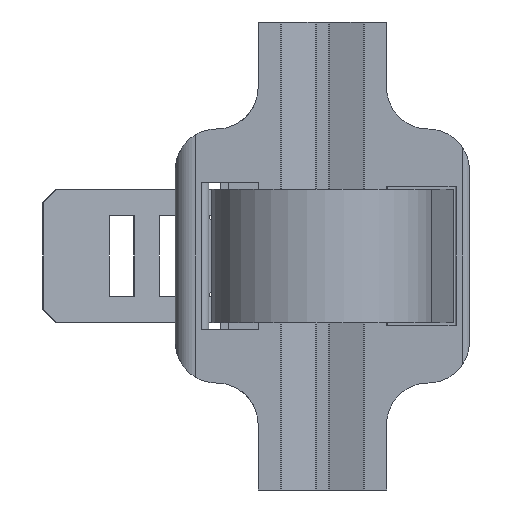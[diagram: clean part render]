
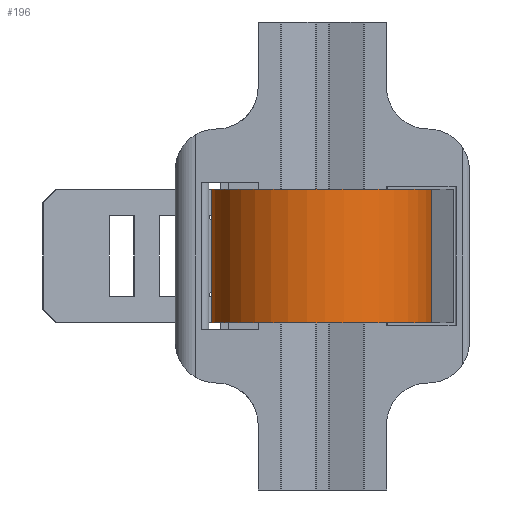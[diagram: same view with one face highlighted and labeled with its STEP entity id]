
A CAD part, front view. The second image highlights one B-rep face of the part: STEP entity #196.
In plain terms, the highlighted cylindrical face has radius 8.3 mm (diameter 16.6 mm), a partial arc.
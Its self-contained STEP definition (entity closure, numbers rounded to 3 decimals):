
#196 = ADVANCED_FACE( '', ( #505 ), #506, .T. );
#505 = FACE_OUTER_BOUND( '', #934, .T. );
#506 = CYLINDRICAL_SURFACE( '', #935, 8.3 );
#934 = EDGE_LOOP( '', ( #1488, #1489, #1490, #1491 ) );
#935 = AXIS2_PLACEMENT_3D( '', #1492, #1493, #1494 );
#1488 = ORIENTED_EDGE( '', *, *, #2707, .T. );
#1489 = ORIENTED_EDGE( '', *, *, #2708, .F. );
#1490 = ORIENTED_EDGE( '', *, *, #2709, .F. );
#1491 = ORIENTED_EDGE( '', *, *, #2613, .T. );
#1492 = CARTESIAN_POINT( '', ( 0., -7.15, 5. ) );
#1493 = DIRECTION( '', ( 0., 0., 1. ) );
#1494 = DIRECTION( '', ( -1., 0., 0. ) );
#2613 = EDGE_CURVE( '', #3152, #3150, #3153, .T. );
#2707 = EDGE_CURVE( '', #3150, #3316, #3317, .T. );
#2708 = EDGE_CURVE( '', #3318, #3316, #3319, .T. );
#2709 = EDGE_CURVE( '', #3152, #3318, #3320, .T. );
#3150 = VERTEX_POINT( '', #3933 );
#3152 = VERTEX_POINT( '', #3936 );
#3153 = LINE( '', #3937, #3938 );
#3316 = VERTEX_POINT( '', #4182 );
#3317 = CIRCLE( '', #4183, 8.3 );
#3318 = VERTEX_POINT( '', #4184 );
#3319 = LINE( '', #4185, #4186 );
#3320 = CIRCLE( '', #4187, 8.3 );
#3933 = CARTESIAN_POINT( '', ( -8.261, -6.342, -5. ) );
#3936 = CARTESIAN_POINT( '', ( -8.261, -6.342, 5. ) );
#3937 = CARTESIAN_POINT( '', ( -8.261, -6.342, 5. ) );
#3938 = VECTOR( '', #5034, 1000. );
#4182 = CARTESIAN_POINT( '', ( 8.155, -8.693, -5. ) );
#4183 = AXIS2_PLACEMENT_3D( '', #5161, #5162, #5163 );
#4184 = CARTESIAN_POINT( '', ( 8.155, -8.693, 5. ) );
#4185 = CARTESIAN_POINT( '', ( 8.155, -8.693, 5. ) );
#4186 = VECTOR( '', #5164, 1000. );
#4187 = AXIS2_PLACEMENT_3D( '', #5165, #5166, #5167 );
#5034 = DIRECTION( '', ( 0., 0., -1. ) );
#5161 = CARTESIAN_POINT( '', ( 0., -7.15, -5. ) );
#5162 = DIRECTION( '', ( 0., 0., 1. ) );
#5163 = DIRECTION( '', ( 1., 0., 0. ) );
#5164 = DIRECTION( '', ( 0., 0., -1. ) );
#5165 = CARTESIAN_POINT( '', ( 0., -7.15, 5. ) );
#5166 = DIRECTION( '', ( 0., 0., 1. ) );
#5167 = DIRECTION( '', ( 1., 0., 0. ) );
